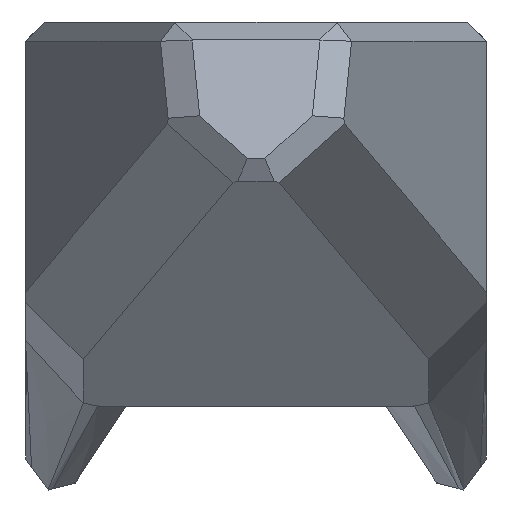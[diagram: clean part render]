
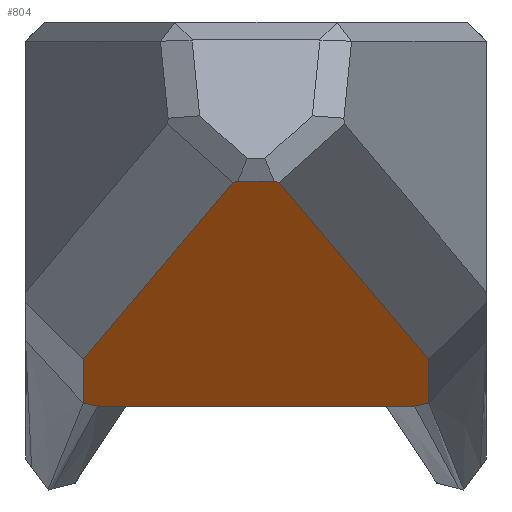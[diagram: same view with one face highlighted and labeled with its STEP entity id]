
A CAD part, front view. The second image highlights one B-rep face of the part: STEP entity #804.
In plain terms, the highlighted planar face has unit normal (0, -0.301, -0.954).
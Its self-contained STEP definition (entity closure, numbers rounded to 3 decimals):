
#1 = EDGE_CURVE ( 'NONE', #128, #1456, #906, .T. ) ;
#2 = DIRECTION ( 'NONE',  ( -1., 0., 0. ) ) ;
#13 = VECTOR ( 'NONE', #587, 1000. ) ;
#18 = EDGE_CURVE ( 'NONE', #371, #1201, #1322, .T. ) ;
#33 = ORIENTED_EDGE ( 'NONE', *, *, #347, .T. ) ;
#47 = ORIENTED_EDGE ( 'NONE', *, *, #555, .T. ) ;
#62 = ORIENTED_EDGE ( 'NONE', *, *, #381, .F. ) ;
#69 = CARTESIAN_POINT ( 'NONE',  ( -4.129, -3., -10. ) ) ;
#102 = CARTESIAN_POINT ( 'NONE',  ( 6., -21.523, -4.151 ) ) ;
#128 = VERTEX_POINT ( 'NONE', #547 ) ;
#157 = CARTESIAN_POINT ( 'NONE',  ( -4.546, -6.647, -8.848 ) ) ;
#249 = LINE ( 'NONE', #800, #430 ) ;
#253 = VERTEX_POINT ( 'NONE', #1309 ) ;
#279 = CARTESIAN_POINT ( 'NONE',  ( -0.479, -21.523, -4.151 ) ) ;
#293 = CARTESIAN_POINT ( 'NONE',  ( 6., -22., -4. ) ) ;
#295 = CARTESIAN_POINT ( 'NONE',  ( -4.129, -3., -10. ) ) ;
#302 = LINE ( 'NONE', #451, #791 ) ;
#318 = ORIENTED_EDGE ( 'NONE', *, *, #929, .T. ) ;
#347 = EDGE_CURVE ( 'NONE', #1201, #903, #963, .T. ) ;
#352 = EDGE_LOOP ( 'NONE', ( #318, #1504, #1526, #730, #47, #62, #861, #1036, #771, #33 ) ) ;
#369 = CARTESIAN_POINT ( 'NONE',  ( 0.6, -21.446, -4.175 ) ) ;
#371 = VERTEX_POINT ( 'NONE', #1217 ) ;
#381 = EDGE_CURVE ( 'NONE', #128, #423, #302, .T. ) ;
#421 = LINE ( 'NONE', #157, #1582 ) ;
#423 = VERTEX_POINT ( 'NONE', #295 ) ;
#427 = DIRECTION ( 'NONE',  ( -1., 0., 0. ) ) ;
#430 = VECTOR ( 'NONE', #794, 1000. ) ;
#440 = CARTESIAN_POINT ( 'NONE',  ( 4.5, -3.252, -9.92 ) ) ;
#449 = DIRECTION ( 'NONE',  ( 0., -0.954, 0.301 ) ) ;
#451 = CARTESIAN_POINT ( 'NONE',  ( 6., -3., -10. ) ) ;
#459 = VERTEX_POINT ( 'NONE', #1618 ) ;
#466 = CARTESIAN_POINT ( 'NONE',  ( -4.376, -3.168, -9.947 ) ) ;
#473 = DIRECTION ( 'NONE',  ( -0.832, 0.529, -0.167 ) ) ;
#480 = EDGE_CURVE ( 'NONE', #1641, #998, #1112, .T. ) ;
#547 = CARTESIAN_POINT ( 'NONE',  ( 4.129, -3., -10. ) ) ;
#555 = EDGE_CURVE ( 'NONE', #253, #423, #1598, .T. ) ;
#570 = VECTOR ( 'NONE', #1473, 1000. ) ;
#572 = CARTESIAN_POINT ( 'NONE',  ( 4.5, -7., -8.737 ) ) ;
#587 = DIRECTION ( 'NONE',  ( 0., -0.954, 0.301 ) ) ;
#590 = CARTESIAN_POINT ( 'NONE',  ( 4.253, -3.084, -9.973 ) ) ;
#601 = EDGE_CURVE ( 'NONE', #459, #253, #249, .T. ) ;
#627 = VECTOR ( 'NONE', #1331, 1000. ) ;
#635 = LINE ( 'NONE', #102, #783 ) ;
#698 = DIRECTION ( 'NONE',  ( -0.246, 0.924, -0.292 ) ) ;
#721 = CARTESIAN_POINT ( 'NONE',  ( -4.5, -3.252, -9.92 ) ) ;
#730 = ORIENTED_EDGE ( 'NONE', *, *, #601, .T. ) ;
#735 = EDGE_CURVE ( 'NONE', #998, #459, #421, .T. ) ;
#771 = ORIENTED_EDGE ( 'NONE', *, *, #18, .T. ) ;
#783 = VECTOR ( 'NONE', #2, 1000. ) ;
#791 = VECTOR ( 'NONE', #427, 1000. ) ;
#794 = DIRECTION ( 'NONE',  ( 0., 0.954, -0.301 ) ) ;
#800 = CARTESIAN_POINT ( 'NONE',  ( -4.5, -22., -4. ) ) ;
#804 = ADVANCED_FACE ( 'NONE', ( #829 ), #1340, .F. ) ;
#829 = FACE_OUTER_BOUND ( 'NONE', #352, .T. ) ;
#861 = ORIENTED_EDGE ( 'NONE', *, *, #1, .T. ) ;
#862 = CARTESIAN_POINT ( 'NONE',  ( -4.253, -3.084, -9.973 ) ) ;
#903 = VERTEX_POINT ( 'NONE', #1229 ) ;
#906 = B_SPLINE_CURVE_WITH_KNOTS ( 'NONE', 3,
 ( #967, #590, #1347, #440 ),
 .UNSPECIFIED., .F., .F.,
 ( 4, 4 ),
 ( 0., 1. ),
 .UNSPECIFIED. ) ;
#929 = EDGE_CURVE ( 'NONE', #903, #1641, #635, .T. ) ;
#963 = LINE ( 'NONE', #1457, #570 ) ;
#967 = CARTESIAN_POINT ( 'NONE',  ( 4.129, -3., -10. ) ) ;
#998 = VERTEX_POINT ( 'NONE', #1274 ) ;
#1036 = ORIENTED_EDGE ( 'NONE', *, *, #1380, .T. ) ;
#1112 = LINE ( 'NONE', #1627, #1636 ) ;
#1173 = LINE ( 'NONE', #572, #13 ) ;
#1194 = CARTESIAN_POINT ( 'NONE',  ( 0.546, -21.647, -4.111 ) ) ;
#1201 = VERTEX_POINT ( 'NONE', #369 ) ;
#1217 = CARTESIAN_POINT ( 'NONE',  ( 4.5, -6.821, -8.793 ) ) ;
#1229 = CARTESIAN_POINT ( 'NONE',  ( 0.479, -21.523, -4.151 ) ) ;
#1274 = CARTESIAN_POINT ( 'NONE',  ( -0.6, -21.446, -4.175 ) ) ;
#1309 = CARTESIAN_POINT ( 'NONE',  ( -4.5, -3.252, -9.92 ) ) ;
#1322 = LINE ( 'NONE', #1194, #627 ) ;
#1331 = DIRECTION ( 'NONE',  ( -0.246, -0.924, 0.292 ) ) ;
#1340 = PLANE ( 'NONE',  #1470 ) ;
#1347 = CARTESIAN_POINT ( 'NONE',  ( 4.376, -3.168, -9.947 ) ) ;
#1380 = EDGE_CURVE ( 'NONE', #1456, #371, #1173, .T. ) ;
#1456 = VERTEX_POINT ( 'NONE', #1466 ) ;
#1457 = CARTESIAN_POINT ( 'NONE',  ( 3.595, -19.541, -4.777 ) ) ;
#1466 = CARTESIAN_POINT ( 'NONE',  ( 4.5, -3.252, -9.92 ) ) ;
#1470 = AXIS2_PLACEMENT_3D ( 'NONE', #293, #1597, #449 ) ;
#1473 = DIRECTION ( 'NONE',  ( -0.832, -0.529, 0.167 ) ) ;
#1504 = ORIENTED_EDGE ( 'NONE', *, *, #480, .T. ) ;
#1526 = ORIENTED_EDGE ( 'NONE', *, *, #735, .T. ) ;
#1582 = VECTOR ( 'NONE', #698, 1000. ) ;
#1597 = DIRECTION ( 'NONE',  ( 0., 0.301, 0.954 ) ) ;
#1598 = B_SPLINE_CURVE_WITH_KNOTS ( 'NONE', 3,
 ( #721, #466, #862, #69 ),
 .UNSPECIFIED., .F., .F.,
 ( 4, 4 ),
 ( 0., 1. ),
 .UNSPECIFIED. ) ;
#1618 = CARTESIAN_POINT ( 'NONE',  ( -4.5, -6.821, -8.793 ) ) ;
#1627 = CARTESIAN_POINT ( 'NONE',  ( 0.881, -22.388, -3.877 ) ) ;
#1636 = VECTOR ( 'NONE', #473, 1000. ) ;
#1641 = VERTEX_POINT ( 'NONE', #279 ) ;
